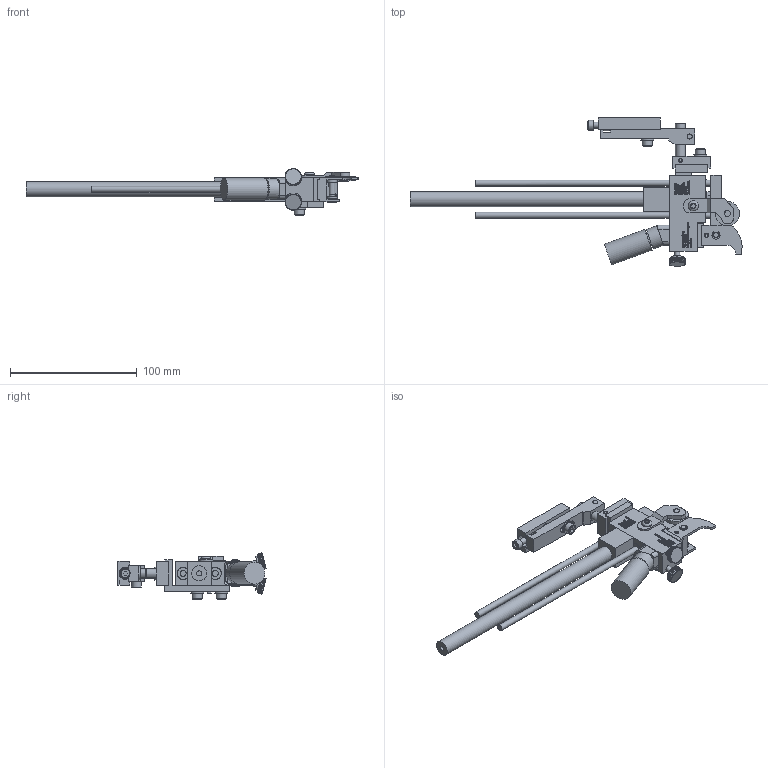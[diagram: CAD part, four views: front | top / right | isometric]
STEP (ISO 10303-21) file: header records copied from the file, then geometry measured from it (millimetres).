
FILE_DESCRIPTION((''),'2;1');
FILE_NAME('C:\Documents and Settings\Ron\My Documents\Inventor\Sprinter Drawing\Machines in Inventor\Model 44\Dot\3-eight\Ext Str\E4\Brkt\Ret\Model 44 E4 .375 dia dot Ret w Brkt.stp','2009-01-26T12:09:55',('Ron'),(''),'Autodesk Inventor 2008','Autodesk Inventor 2008','');
FILE_SCHEMA(('AUTOMOTIVE_DESIGN { 1 0 10303 214 1 1 1 1 }'));
Length unit declared in the file: inch
Products named in the file (1): Model 44 E4 .375 dia dot Ret w Brkt
Bounding box: 262.28 x 117.12 x 36.82 mm (x, y, z)
Volume: 118844.7 mm3; surface area: 57311.7 mm2
Topology: 30 solids, 30 shells, 6209 faces, 15414 edges, 9535 vertices
Faces by surface type: plane 4368, bspline 1319, cylinder 470, cone 46, torus 6
Full cylindrical faces by diameter (mm): 3.175 x4, 3.302 x1, 3.962 x1, 4.064 x6, 4.166 x1, 4.699 x1, 4.75 x4, 4.775 x1, 4.826 x7, 5.144 x1, 5.156 x5, 5.207 x2, 5.41 x2, 6.096 x1, 6.274 x2, 7.239 x1, 7.62 x1, 7.925 x7, 7.938 x1, 8.128 x1, 9.017 x1, 9.525 x3, 10.312 x4, 10.922 x1, 11.036 x1, 11.303 x1, 11.938 x2, 12.522 x1, 14.478 x1, 16.256 x1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
Entity records: 197785 total; most frequent: CARTESIAN_POINT 54109, ORIENTED_EDGE 30388, DIRECTION 23635, EDGE_CURVE 15194, VECTOR 11401, LINE 11401, VERTEX_POINT 9472, EDGE_LOOP 6770
